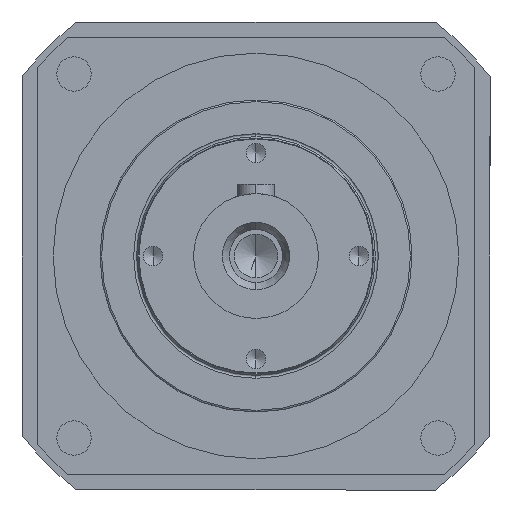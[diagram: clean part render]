
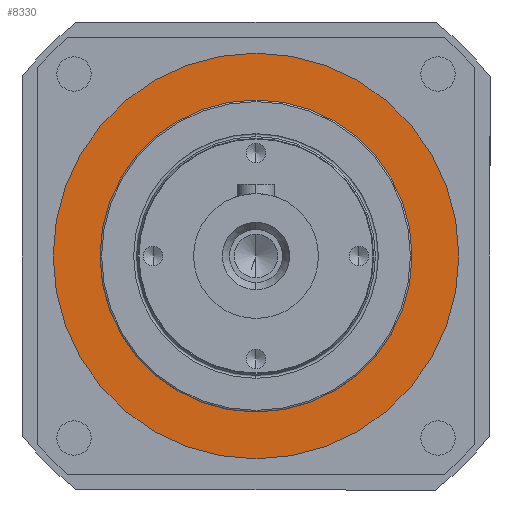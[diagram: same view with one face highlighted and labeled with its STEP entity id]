
A CAD part, left-side view. The second image highlights one B-rep face of the part: STEP entity #8330.
In plain terms, the highlighted planar face has unit normal (-1, 0, 0).
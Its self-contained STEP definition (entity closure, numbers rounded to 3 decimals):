
#625 = AXIS2_PLACEMENT_3D ( 'NONE', #6463, #6186, #6179 ) ;
#806 = DIRECTION ( 'NONE',  ( 0., 0., 1. ) ) ;
#1784 = ORIENTED_EDGE ( 'NONE', *, *, #3749, .F. ) ;
#2067 = EDGE_CURVE ( 'NONE', #17377, #32626, #15857, .T. ) ;
#3648 = ORIENTED_EDGE ( 'NONE', *, *, #30720, .F. ) ;
#3749 = EDGE_CURVE ( 'NONE', #31549, #29715, #17376, .T. ) ;
#4751 = DIRECTION ( 'NONE',  ( -1., 0., 0. ) ) ;
#5180 = CARTESIAN_POINT ( 'NONE',  ( 84., 0., 0. ) ) ;
#5425 = AXIS2_PLACEMENT_3D ( 'NONE', #22998, #4751, #20359 ) ;
#6179 = DIRECTION ( 'NONE',  ( 0., 0., -1. ) ) ;
#6186 = DIRECTION ( 'NONE',  ( 1., 0., 0. ) ) ;
#6463 = CARTESIAN_POINT ( 'NONE',  ( 84., 0., -50. ) ) ;
#7017 = PLANE ( 'NONE',  #625 ) ;
#7772 = DIRECTION ( 'NONE',  ( 0., 0., 1. ) ) ;
#8009 = DIRECTION ( 'NONE',  ( 0., 0., 1. ) ) ;
#8037 = DIRECTION ( 'NONE',  ( 1., 0., 0. ) ) ;
#8043 = CARTESIAN_POINT ( 'NONE',  ( 84., 0., 0. ) ) ;
#8330 = ADVANCED_FACE ( 'NONE', ( #31834, #24154 ), #7017, .F. ) ;
#8791 = EDGE_LOOP ( 'NONE', ( #1784, #26106 ) ) ;
#8859 = EDGE_LOOP ( 'NONE', ( #26635, #3648 ) ) ;
#15191 = AXIS2_PLACEMENT_3D ( 'NONE', #32071, #16471, #806 ) ;
#15857 = CIRCLE ( 'NONE', #5425, 50. ) ;
#16212 = CIRCLE ( 'NONE', #31203, 50. ) ;
#16471 = DIRECTION ( 'NONE',  ( 1., 0., 0. ) ) ;
#17376 = CIRCLE ( 'NONE', #25558, 65. ) ;
#17377 = VERTEX_POINT ( 'NONE', #28716 ) ;
#20359 = DIRECTION ( 'NONE',  ( 0., 0., 1. ) ) ;
#20656 = CARTESIAN_POINT ( 'NONE',  ( 84., 0., -65. ) ) ;
#22998 = CARTESIAN_POINT ( 'NONE',  ( 84., 0., 0. ) ) ;
#23441 = DIRECTION ( 'NONE',  ( -1., 0., 0. ) ) ;
#23864 = CARTESIAN_POINT ( 'NONE',  ( 84., 0., 65. ) ) ;
#24154 = FACE_OUTER_BOUND ( 'NONE', #8791, .T. ) ;
#25558 = AXIS2_PLACEMENT_3D ( 'NONE', #8043, #8037, #8009 ) ;
#26106 = ORIENTED_EDGE ( 'NONE', *, *, #27046, .F. ) ;
#26635 = ORIENTED_EDGE ( 'NONE', *, *, #2067, .F. ) ;
#27046 = EDGE_CURVE ( 'NONE', #29715, #31549, #33537, .T. ) ;
#28716 = CARTESIAN_POINT ( 'NONE',  ( 84., 0., 50. ) ) ;
#29715 = VERTEX_POINT ( 'NONE', #20656 ) ;
#30720 = EDGE_CURVE ( 'NONE', #32626, #17377, #16212, .T. ) ;
#31203 = AXIS2_PLACEMENT_3D ( 'NONE', #5180, #23441, #7772 ) ;
#31349 = CARTESIAN_POINT ( 'NONE',  ( 84., 0., -50. ) ) ;
#31549 = VERTEX_POINT ( 'NONE', #23864 ) ;
#31834 = FACE_BOUND ( 'NONE', #8859, .T. ) ;
#32071 = CARTESIAN_POINT ( 'NONE',  ( 84., 0., 0. ) ) ;
#32626 = VERTEX_POINT ( 'NONE', #31349 ) ;
#33537 = CIRCLE ( 'NONE', #15191, 65. ) ;
